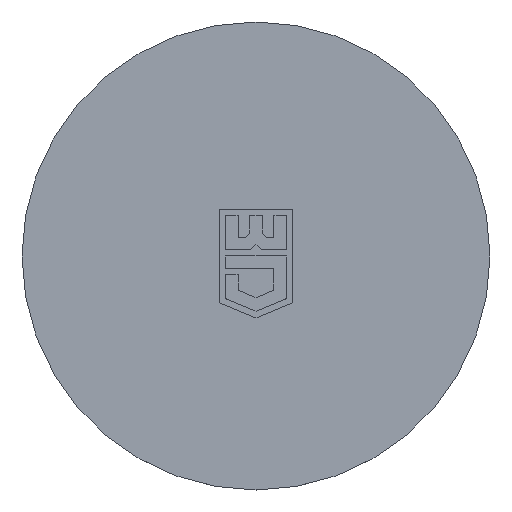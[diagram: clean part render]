
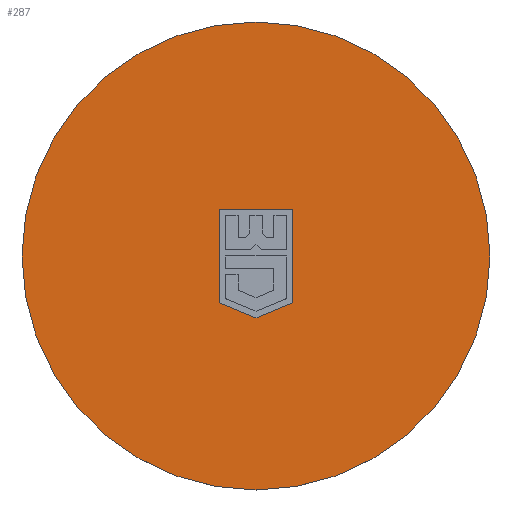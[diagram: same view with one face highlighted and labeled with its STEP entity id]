
A CAD part, top view. The second image highlights one B-rep face of the part: STEP entity #287.
In plain terms, the highlighted planar face has unit normal (0, 0, 1).
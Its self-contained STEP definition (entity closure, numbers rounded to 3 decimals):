
#150 = DIRECTION ( 'NONE',  ( -0.924, -0.383, 0. ) ) ;
#151 = VECTOR ( 'NONE', #150, 1000. ) ;
#152 = CARTESIAN_POINT ( 'NONE',  ( 0., -2.052, 0. ) ) ;
#153 = LINE ( 'NONE', #152, #151 ) ;
#287 = ADVANCED_FACE ( 'NONE', ( #814, #813 ), #794, .F. ) ;
#288 = EDGE_LOOP ( 'NONE', ( #367, #368 ) ) ;
#289 = EDGE_CURVE ( 'NONE', #352, #350, #776, .T. ) ;
#293 = EDGE_LOOP ( 'NONE', ( #372, #362, #365, #359, #650 ) ) ;
#349 = EDGE_CURVE ( 'NONE', #350, #352, #924, .T. ) ;
#350 = VERTEX_POINT ( 'NONE', #927 ) ;
#352 = VERTEX_POINT ( 'NONE', #888 ) ;
#357 = EDGE_CURVE ( 'NONE', #364, #358, #886, .T. ) ;
#358 = VERTEX_POINT ( 'NONE', #882 ) ;
#359 = ORIENTED_EDGE ( 'NONE', *, *, #360, .T. ) ;
#360 = EDGE_CURVE ( 'NONE', #358, #361, #906, .T. ) ;
#361 = VERTEX_POINT ( 'NONE', #902 ) ;
#362 = ORIENTED_EDGE ( 'NONE', *, *, #363, .T. ) ;
#363 = EDGE_CURVE ( 'NONE', #375, #364, #990, .T. ) ;
#364 = VERTEX_POINT ( 'NONE', #986 ) ;
#365 = ORIENTED_EDGE ( 'NONE', *, *, #357, .T. ) ;
#367 = ORIENTED_EDGE ( 'NONE', *, *, #349, .T. ) ;
#368 = ORIENTED_EDGE ( 'NONE', *, *, #289, .T. ) ;
#372 = ORIENTED_EDGE ( 'NONE', *, *, #373, .T. ) ;
#373 = EDGE_CURVE ( 'NONE', #374, #375, #913, .T. ) ;
#374 = VERTEX_POINT ( 'NONE', #899 ) ;
#375 = VERTEX_POINT ( 'NONE', #891 ) ;
#648 = EDGE_CURVE ( 'NONE', #361, #374, #153, .T. ) ;
#650 = ORIENTED_EDGE ( 'NONE', *, *, #648, .T. ) ;
#773 = DIRECTION ( 'NONE',  ( 0., -1., 0. ) ) ;
#774 = DIRECTION ( 'NONE',  ( 0., 0., 1. ) ) ;
#775 = AXIS2_PLACEMENT_3D ( 'NONE', #828, #774, #773 ) ;
#776 = CIRCLE ( 'NONE', #775, 7.75 ) ;
#794 = PLANE ( 'NONE',  #831 ) ;
#813 = FACE_BOUND ( 'NONE', #293, .T. ) ;
#814 = FACE_OUTER_BOUND ( 'NONE', #288, .T. ) ;
#825 = DIRECTION ( 'NONE',  ( 0., 1., 0. ) ) ;
#826 = DIRECTION ( 'NONE',  ( 0., 0., -1. ) ) ;
#827 = CARTESIAN_POINT ( 'NONE',  ( 0., 0., 0. ) ) ;
#828 = CARTESIAN_POINT ( 'NONE',  ( 0., 0., 0. ) ) ;
#831 = AXIS2_PLACEMENT_3D ( 'NONE', #827, #826, #825 ) ;
#882 = CARTESIAN_POINT ( 'NONE',  ( 1.215, 1.548, 0. ) ) ;
#883 = DIRECTION ( 'NONE',  ( 1., 0., 0. ) ) ;
#884 = VECTOR ( 'NONE', #883, 1000. ) ;
#885 = CARTESIAN_POINT ( 'NONE',  ( -1.215, 1.548, 0. ) ) ;
#886 = LINE ( 'NONE', #885, #884 ) ;
#888 = CARTESIAN_POINT ( 'NONE',  ( 0., 7.75, 0. ) ) ;
#891 = CARTESIAN_POINT ( 'NONE',  ( -1.215, -1.549, 0. ) ) ;
#899 = CARTESIAN_POINT ( 'NONE',  ( 0., -2.052, 0. ) ) ;
#900 = DIRECTION ( 'NONE',  ( -0.924, 0.383, 0. ) ) ;
#901 = VECTOR ( 'NONE', #900, 1000. ) ;
#902 = CARTESIAN_POINT ( 'NONE',  ( 1.215, -1.549, 0. ) ) ;
#903 = DIRECTION ( 'NONE',  ( 0., -1., 0. ) ) ;
#904 = VECTOR ( 'NONE', #903, 1000. ) ;
#905 = CARTESIAN_POINT ( 'NONE',  ( 1.215, 1.548, 0. ) ) ;
#906 = LINE ( 'NONE', #905, #904 ) ;
#912 = CARTESIAN_POINT ( 'NONE',  ( 0., -2.052, 0. ) ) ;
#913 = LINE ( 'NONE', #912, #901 ) ;
#923 = AXIS2_PLACEMENT_3D ( 'NONE', #960, #929, #928 ) ;
#924 = CIRCLE ( 'NONE', #923, 7.75 ) ;
#927 = CARTESIAN_POINT ( 'NONE',  ( 0., -7.75, 0. ) ) ;
#928 = DIRECTION ( 'NONE',  ( 0., -1., 0. ) ) ;
#929 = DIRECTION ( 'NONE',  ( 0., 0., 1. ) ) ;
#960 = CARTESIAN_POINT ( 'NONE',  ( 0., 0., 0. ) ) ;
#986 = CARTESIAN_POINT ( 'NONE',  ( -1.215, 1.548, 0. ) ) ;
#987 = DIRECTION ( 'NONE',  ( 0., 1., 0. ) ) ;
#988 = VECTOR ( 'NONE', #987, 1000. ) ;
#989 = CARTESIAN_POINT ( 'NONE',  ( -1.215, -1.549, 0. ) ) ;
#990 = LINE ( 'NONE', #989, #988 ) ;
